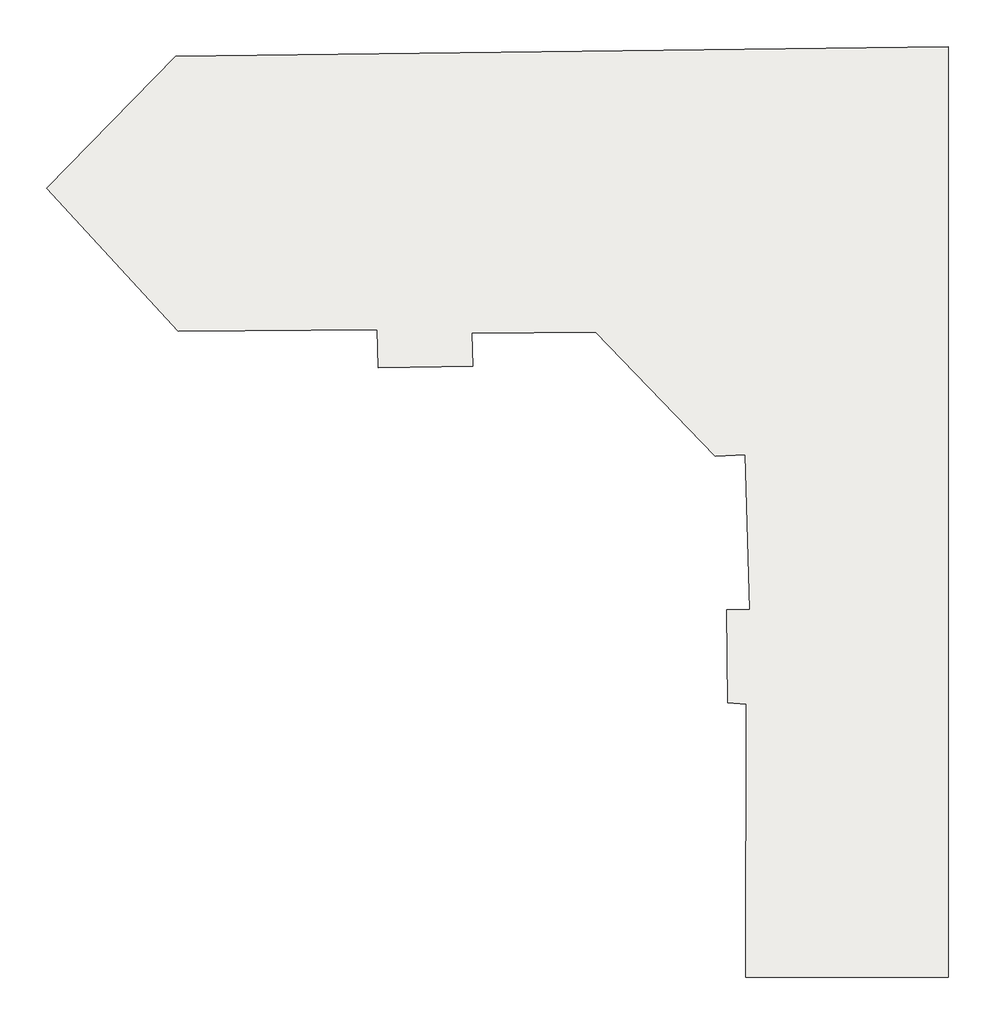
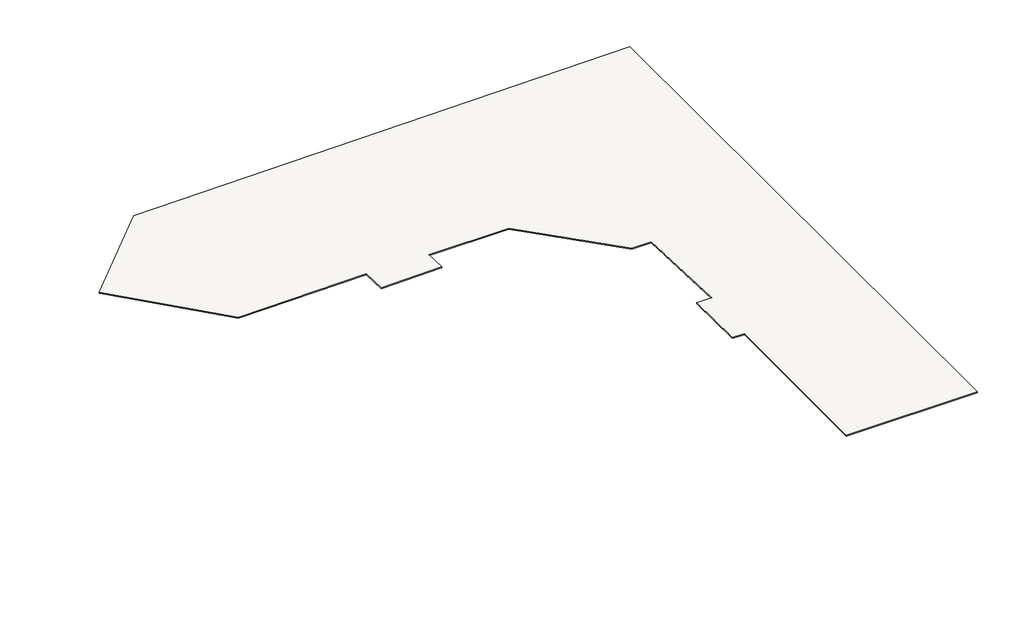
# One storey, incomplete: 1 slab.
"""IFC4 building model written with IfcOpenShell, lengths in millimetres."""

from ifc_helpers import new_model, si_unit, frame, origin, place, context, project, spatial, polyline, outline, extrude, element, save

model = new_model("IFC4")

# Units and contexts
model_context = context("Model", 3, world=origin())
ifc_project = project(units=[si_unit("LENGTHUNIT", "METRE", prefix="MILLI")], contexts=[model_context])

# Site, building, storey
site = spatial("IfcSite", under=ifc_project)
building = spatial("IfcBuilding", under=site)
storey = spatial("IfcBuildingStorey", under=building, Name="EX. PARKING (NORTH) PIEDMONT", Elevation=293954.2)

# Slab
placement = place(None, origin())
element("IfcSlab", 1, ObjectType="Pad 2", at=placement, inside=storey, context=model_context, shape_type="SweptSolid", body=[
    extrude(outline(polyline([(89233.2327876, 249917.4017662), (85836.4828583, 250208.1755853), (85625.4755368, 267172.9135209), (89822.0897933, 267272.879233), (89031.1879164, 295398.8966046), (83523.3269277, 295207.5861154), (61728.1715848, 317758.5784056), (39158.3860941, 317627.1673105), (39319.77479, 311620.4947812), (22014.0253244, 311276.2904888), (21875.6232185, 318234.8096647), (-14402.2718098, 317990.7543647), (-38456.9538939, 344049.4365982), (-14929.6161866, 368167.2150745), (126000.8452671, 369913.691874), (126033.6675898, 200085.8655739), (89087.7793129, 200106.9203111), (89233.2327876, 249917.4017662)])), frame((0.0, 0.0, 293649.4), z_axis=(0.0, 0.0, 1.0), x_axis=(1.0, 0.0, 0.0)), (0.0, 0.0, 1.0), 304.8),
])

save(model, "model.ifc")
